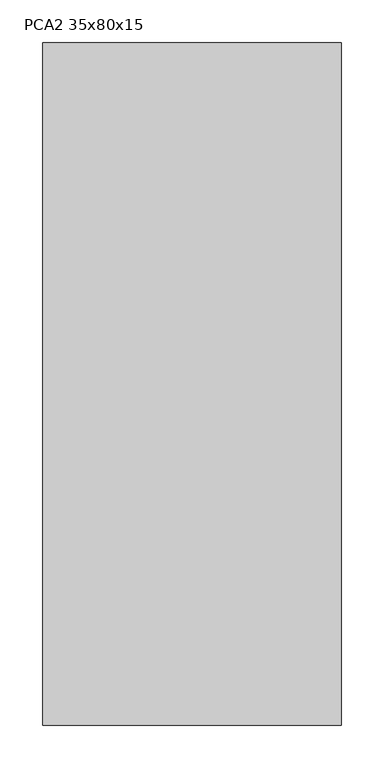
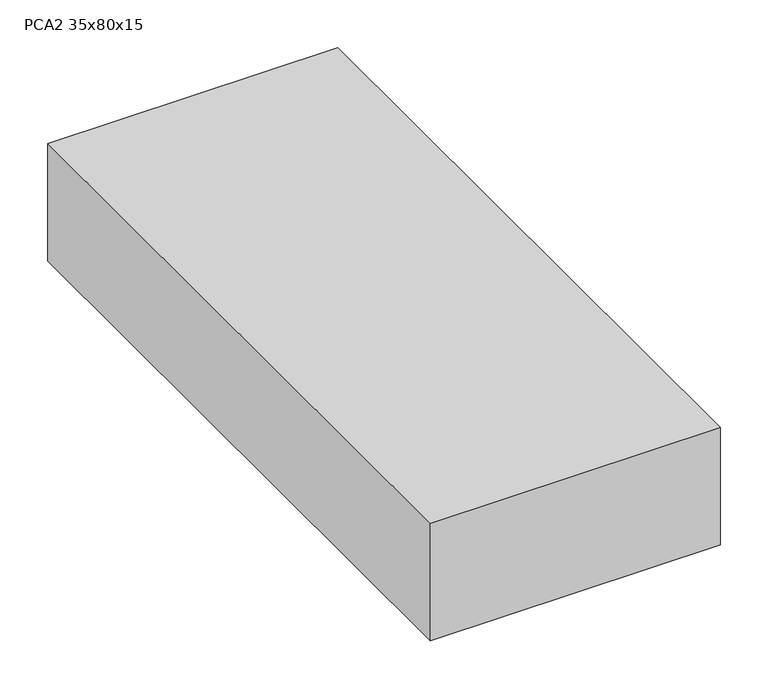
"""IFC4 building model written with IfcOpenShell, lengths in millimetres: proxy geometry, TABLERO ELECTRICO DE SUPERFICIE : PCA2 35x80x15."""

import ifcopenshell
import ifcopenshell.guid

model = None  # the IFC model being written
_history = None  # IfcOwnerHistory: only IFC2X3 demands one
_inside = {}  # id of a spatial element -> (the spatial element, [elements in it])
_under = {}  # id of a project, library or spatial element -> (it, [spatial elements below it])
_declared = {}  # id of a project -> (the project, [libraries it declares])
_typed = {}  # id of a type object -> (the type object, [elements of that type])
_made_of = {}  # id of a material, layer set ... -> (it, [elements and type objects made of it])


def new_model(schema):
    """Start an empty IFC model of exactly this schema.

    Asked for "IFC4X3", IfcOpenShell would pick the latest addendum, in which some entities
    have other attributes; the version numbers below select the first issue.
    IFC2X3 requires an IfcOwnerHistory on every rooted entity: one is made here for all.
    """
    global model, _history
    if schema == "IFC4X3":
        model = ifcopenshell.file(schema_version=(4, 3, 0, 0))
    else:
        model = ifcopenshell.file(schema=schema)
    _inside.clear()
    _under.clear()
    _declared.clear()
    _typed.clear()
    _made_of.clear()
    _history = None
    if model.schema == "IFC2X3":
        org = make("IfcOrganization", Name="unknown")
        user = make(
            "IfcPersonAndOrganization",
            ThePerson=make("IfcPerson", FamilyName="unknown"),
            TheOrganization=org,
        )
        app = make(
            "IfcApplication",
            ApplicationDeveloper=org,
            Version="unknown",
            ApplicationFullName="unknown",
            ApplicationIdentifier="unknown",
        )
        _history = make(
            "IfcOwnerHistory",
            OwningUser=user,
            OwningApplication=app,
            ChangeAction="ADDED",
            CreationDate=0,
        )
    return model


def make(cls, **values):
    """One entity of the class cls with the attributes given. An attribute that is None is left unset."""
    return model.create_entity(
        cls, **{name: value for name, value in values.items() if value is not None}
    )


def rooted(cls, **values):
    """An entity with a GlobalId (a new one), such as an element, a storey or a relation."""
    return make(cls, GlobalId=ifcopenshell.guid.new(), OwnerHistory=_history, **values)


def si_unit(unit_type, name, prefix=None):
    """IfcSIUnit, for example si_unit("LENGTHUNIT", "METRE", prefix="MILLI")."""
    return make("IfcSIUnit", UnitType=unit_type, Prefix=prefix, Name=name)


def assignment(units):
    """IfcUnitAssignment: the units of a project."""
    return None if units is None else make("IfcUnitAssignment", Units=units)


def point(xyz):
    """IfcCartesianPoint."""
    return None if xyz is None else make("IfcCartesianPoint", Coordinates=xyz)


def direction(xyz):
    """IfcDirection."""
    return None if xyz is None else make("IfcDirection", DirectionRatios=xyz)


def frame(location, z_axis=None, x_axis=None):
    """IfcAxis2Placement3D, a coordinate frame: its origin and axes. An axis left out is left unset."""
    return make(
        "IfcAxis2Placement3D",
        Location=point(location),
        Axis=direction(z_axis),
        RefDirection=direction(x_axis),
    )


def origin():
    """The frame at (0, 0, 0) with its axes left unset."""
    return frame((0.0, 0.0, 0.0))


def origin_with_axes():
    """The frame at (0, 0, 0) with the z axis (0, 0, 1) and the x axis (1, 0, 0) written out."""
    return frame((0.0, 0.0, 0.0), z_axis=(0.0, 0.0, 1.0), x_axis=(1.0, 0.0, 0.0))


def place(relative_to, where):
    """IfcLocalPlacement: puts the frame where relative to a parent placement (None: the world)."""
    return make(
        "IfcLocalPlacement", PlacementRelTo=relative_to, RelativePlacement=where
    )


def context(
    kind, dimensions, precision=None, world=None, true_north=None, identifier=None
):
    """IfcGeometricRepresentationContext, for example the 3D "Model" context."""
    return make(
        "IfcGeometricRepresentationContext",
        ContextIdentifier=identifier,
        ContextType=kind,
        CoordinateSpaceDimension=dimensions,
        Precision=precision,
        WorldCoordinateSystem=world,
        TrueNorth=true_north,
    )


def project(units=None, contexts=None):
    """IfcProject with its units and contexts."""
    return rooted(
        "IfcProject",
        Name="project",
        RepresentationContexts=contexts,
        UnitsInContext=assignment(units),
    )


def spatial(cls, under=None, at=None, **own):
    """A site, building, storey or space (cls), placed at a placement, below another one or the project."""
    s = rooted(cls, ObjectPlacement=at, **own)
    if under is not None:
        _under.setdefault(under.id(), (under, []))[1].append(s)
    return s


def polyline(points):
    """IfcPolyline through the points."""
    return make("IfcPolyline", Points=[point(p) for p in points])


def outline(outer, holes=None, kind="AREA"):
    """IfcArbitraryClosedProfileDef: a profile drawn as a closed curve; with holes, ...WithVoids."""
    if holes is None:
        return make("IfcArbitraryClosedProfileDef", ProfileType=kind, OuterCurve=outer)
    return make(
        "IfcArbitraryProfileDefWithVoids",
        ProfileType=kind,
        OuterCurve=outer,
        InnerCurves=holes,
    )


def extrude(swept, where, along, depth):
    """IfcExtrudedAreaSolid: the profile swept, set in the frame where, extruded along a direction by depth."""
    return make(
        "IfcExtrudedAreaSolid",
        SweptArea=swept,
        Position=where,
        ExtrudedDirection=direction(along),
        Depth=depth,
    )


def shape(context_of_items, identifier, shape_type, items):
    """IfcShapeRepresentation: the items that make up one representation, for example the "Body"."""
    return make(
        "IfcShapeRepresentation",
        ContextOfItems=context_of_items,
        RepresentationIdentifier=identifier,
        RepresentationType=shape_type,
        Items=items,
    )


def source(mapping_origin, context_of_items, identifier, shape_type, items):
    """IfcRepresentationMap: a shape defined once, which mapped items show again and again."""
    return make(
        "IfcRepresentationMap",
        MappingOrigin=mapping_origin,
        MappedRepresentation=shape(context_of_items, identifier, shape_type, items),
    )


def transform(
    local_origin,
    x_axis=None,
    y_axis=None,
    z_axis=None,
    scale=None,
    scale2=None,
    scale3=None,
    uniform=True,
):
    """IfcCartesianTransformationOperator3D, or its non-uniform kind. x_axis, y_axis, z_axis: its Axis1, 2, 3."""
    if uniform:
        return make(
            "IfcCartesianTransformationOperator3D",
            Axis1=direction(x_axis),
            Axis2=direction(y_axis),
            LocalOrigin=point(local_origin),
            Scale=scale,
            Axis3=direction(z_axis),
        )
    return make(
        "IfcCartesianTransformationOperator3DnonUniform",
        Axis1=direction(x_axis),
        Axis2=direction(y_axis),
        LocalOrigin=point(local_origin),
        Scale=scale,
        Axis3=direction(z_axis),
        Scale2=scale2,
        Scale3=scale3,
    )


def mapped(mapping_source, mapping_target):
    """IfcMappedItem: shows the shape of a source again, moved by a transform."""
    return make(
        "IfcMappedItem", MappingSource=mapping_source, MappingTarget=mapping_target
    )


def made_of(thing, what):
    """Note that an element or type object is made of a material, layer set ...; save() writes the relation."""
    if what is not None:
        _made_of.setdefault(what.id(), (what, []))[1].append(thing)
    return thing


def element(
    cls,
    number,
    at=None,
    inside=None,
    cuts=None,
    type_object=None,
    material=None,
    context=None,
    identifier="Body",
    shape_type=None,
    held_by="IfcProductDefinitionShape",
    body=None,
    shapes=None,
    **own,
):
    """One element of the class cls, such as IfcWall. Its Tag is "e" and its number.

    at: its placement. inside: the storey or other place that contains it. cuts: it is an
    opening in that element (IfcRelVoidsElement). A single representation is given by context,
    identifier, shape_type and body (its items); several are given by shapes. held_by: the class
    of the entity that holds the representations. save() writes the other relations.
    """
    e = rooted(cls, Tag="e%d" % number, ObjectPlacement=at, **own)
    if body is not None:
        shapes = [shape(context, identifier, shape_type, body)]
    if shapes is not None:
        e.Representation = make(held_by, Representations=shapes)
    if inside is not None:
        _inside.setdefault(inside.id(), (inside, []))[1].append(e)
    if cuts is not None:
        rooted(
            "IfcRelVoidsElement", RelatingBuildingElement=cuts, RelatedOpeningElement=e
        )
    if type_object is not None:
        _typed.setdefault(type_object.id(), (type_object, []))[1].append(e)
    return made_of(e, material)


def aggregate(whole, parts):
    """IfcRelAggregates: a whole, such as a stair, and the parts it consists of."""
    return rooted("IfcRelAggregates", RelatingObject=whole, RelatedObjects=parts)


def save(model, path):
    """Write the relations noted so far, then the file.

    IfcRelAggregates (storeys below a building ...), IfcRelContainedInSpatialStructure (elements
    in a storey), IfcRelDefinesByType, IfcRelAssociatesMaterial and IfcRelDeclares: one each for
    every whole, place, type object, material and project.
    """
    for whole, parts in _under.values():
        aggregate(whole, parts)
    for where, things in _inside.values():
        rooted(
            "IfcRelContainedInSpatialStructure",
            RelatedElements=things,
            RelatingStructure=where,
        )
    for kind, things in _typed.values():
        rooted("IfcRelDefinesByType", RelatedObjects=things, RelatingType=kind)
    for what, things in _made_of.values():
        rooted("IfcRelAssociatesMaterial", RelatedObjects=things, RelatingMaterial=what)
    for by, libraries in _declared.values():
        rooted("IfcRelDeclares", RelatingContext=by, RelatedDefinitions=libraries)
    model.write(path)


def pca2_35x80x15_251885e6(model_context):
    return source(origin(), model_context, "Body", "SweptSolid", [
        extrude(outline(polyline([(175.0, 0.0), (-175.0, 0.0), (-175.0, 800.0), (175.0, 800.0), (175.0, 0.0)])), origin_with_axes(), (0.0, 0.0, 1.0), 150.0),
    ])


if __name__ == "__main__":
    model = new_model("IFC4")
    model_context = context("Model", 3, world=origin())
    ifc_project = project(units=[si_unit("LENGTHUNIT", "METRE", prefix="MILLI")], contexts=[model_context])
    site = spatial("IfcSite", under=ifc_project)
    building = spatial("IfcBuilding", under=site)
    placement = place(None, origin())
    pca2_35x80x15_shape = pca2_35x80x15_251885e6(model_context)
    element("IfcBuildingElementProxy", 1, Name="TABLERO ELECTRICO DE SUPERFICIE : PCA2 35x80x15", ObjectType="TABLERO ELECTRICO DE SUPERFICIE : PCA2 35x80x15", at=placement, inside=building, context=model_context, shape_type="MappedRepresentation", body=[
        mapped(pca2_35x80x15_shape, transform((0.0, 0.0, 0.0), x_axis=(1.0, 0.0, 0.0), y_axis=(0.0, 1.0, 0.0), z_axis=(0.0, 0.0, 1.0))),
    ])
    save(model, "model.ifc")
